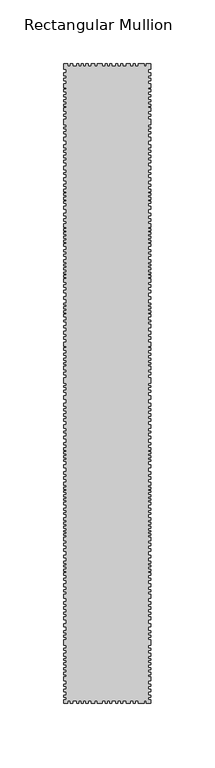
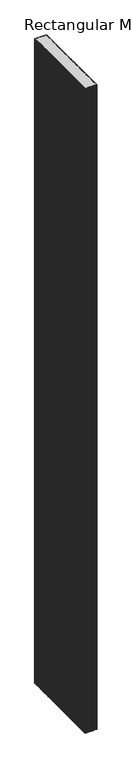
"""IFC4 building model written with IfcOpenShell, lengths in millimetres: member geometry, Rectangular Mullion : DucoSun Cubic Design louvre 500."""

from ifc_helpers import new_model, si_unit, frame, origin, place, context, project, spatial, polyline, outline, extrude, source, transform, mapped, element, save


def rectangular_mullion_1ee86cb2(model_context):
    return source(origin(), model_context, "Body", "SweptSolid", [
        extrude(outline(polyline([(34.0, -497.3782451), (34.0, -500.0), (30.4544414, -500.0), (30.4544414, -498.0), (28.627942, -498.0), (28.627942, -500.0), (23.9842994, -500.0), (23.9842994, -498.0), (21.8172663, -498.0), (21.8172663, -500.0), (20.3003431, -500.0), (20.3003431, -498.0), (17.9475642, -498.0), (17.9475642, -500.0), (14.8827601, -500.0), (14.8827601, -498.0), (12.0965746, -498.0), (12.0965746, -500.0), (10.3939057, -500.0), (10.3939057, -498.0), (8.0101692, -498.0), (8.0101692, -500.0), (6.5242036, -500.0), (6.5242036, -498.0), (3.4884678, -498.0), (3.4884678, -500.0), (1.7094289, -500.0), (1.7094289, -498.0), (0.0, -498.0), (0.0, -500.0), (-1.8486488, -500.0), (-1.8486488, -498.0), (-4.2128978, -498.0), (-4.2128978, -500.0), (-7.9816511, -500.0), (-7.9816511, -498.0), (-10.0415908, -498.0), (-10.0415908, -500.0), (-12.7335575, -500.0), (-12.7335575, -498.0), (-15.0041729, -498.0), (-15.0041729, -500.0), (-16.8768453, -500.0), (-16.8768453, -498.0), (-18.9367851, -498.0), (-18.9367851, -500.0), (-20.2710642, -500.0), (-20.2710642, -498.0), (-22.3075955, -498.0), (-22.3075955, -500.0), (-23.8993671, -500.0), (-23.8993671, -498.0), (-26.9658683, -498.0), (-26.9658683, -500.0), (-28.9321744, -500.0), (-28.9321744, -498.0), (-30.8750721, -498.0), (-30.8750721, -500.0), (-34.0, -500.0), (-34.0, -497.3782451), (-32.0, -497.3782451), (-32.0, -495.4241521), (-34.0, -495.4241521), (-34.0, -493.6532553), (-32.0, -493.6532553), (-32.0, -490.9460223), (-34.0, -490.9460223), (-34.0, -488.9105087), (-32.0, -488.9105087), (-32.0, -486.7121541), (-34.0, -486.7121541), (-34.0, -485.0023227), (-32.0, -485.0023227), (-32.0, -482.3561551), (-34.0, -482.3561551), (-34.0, -479.3843053), (-32.0, -479.3843053), (-32.0, -477.8917893), (-34.0, -477.8917893), (-34.0, -475.8425117), (-32.0, -475.8425117), (-32.0, -473.8680636), (-34.0, -473.8680636), (-34.0, -472.1582322), (-32.0, -472.1582322), (-32.0, -470.0820083), (-34.0, -470.0820083), (-34.0, -468.3111116), (-32.0, -468.3111116), (-32.0, -466.4995045), (-34.0, -466.4995045), (-34.0, -465.0713495), (-32.0, -465.0713495), (-32.0, -463.4577392), (-34.0, -463.4577392), (-34.0, -461.0328231), (-32.0, -461.0328231), (-32.0, -458.5725067), (-34.0, -458.5725067), (-34.0, -457.0325964), (-32.0, -457.0325964), (-32.0, -454.5014796), (-34.0, -454.5014796), (-34.0, -450.4127524), (-32.0, -450.4127524), (-32.0, -448.4126391), (-34.0, -448.4126391), (-34.0, -446.8373286), (-32.0, -446.8373286), (-32.0, -444.9965163), (-34.0, -444.9965163), (-34.0, -443.3504053), (-32.0, -443.3504053), (-32.0, -440.3767855), (-34.0, -440.3767855), (-34.0, -437.9545244), (-32.0, -437.9545244), (-32.0, -434.5552168), (-34.0, -434.5552168), (-34.0, -432.5197032), (-32.0, -432.5197032), (-32.0, -430.239928), (-34.0, -430.239928), (-34.0, -428.6929377), (-32.0, -428.6929377), (-32.0, -426.4335177), (-34.0, -426.4335177), (-34.0, -424.5608452), (-32.0, -424.5608452), (-32.0, -422.6271073), (-34.0, -422.6271073), (-34.0, -420.5508835), (-32.0, -420.5508835), (-32.0, -418.0064916), (-34.0, -418.0064916), (-34.0, -414.9328661), (-32.0, -414.9328661), (-32.0, -412.9177077), (-34.0, -412.9177077), (-34.0, -411.4114277), (-32.0, -411.4114277), (-32.0, -408.9688114), (-34.0, -408.9688114), (-34.0, -406.7118273), (-32.0, -406.7118273), (-32.0, -403.8852623), (-34.0, -403.8852623), (-34.0, -402.4316003), (-32.0, -402.4316003), (-32.0, -399.9011516), (-34.0, -399.9011516), (-34.0, -397.8552569), (-32.0, -397.8552569), (-32.0, -396.6169522), (-34.0, -396.6169522), (-34.0, -395.0825312), (-32.0, -395.0825312), (-32.0, -393.4673512), (-34.0, -393.4673512), (-34.0, -392.0675286), (-32.0, -392.0675286), (-32.0, -390.5869469), (-34.0, -390.5869469), (-34.0, -389.1602046), (-32.0, -389.1602046), (-32.0, -386.3310055), (-34.0, -386.3310055), (-34.0, -384.2608252), (-32.0, -384.2608252), (-32.0, -381.1919832), (-34.0, -381.1919832), (-34.0, -379.2537672), (-32.0, -379.2537672), (-32.0, -376.9360418), (-34.0, -376.9360418), (-34.0, -375.0004598), (-32.0, -375.0004598), (-32.0, -372.9007258), (-34.0, -372.9007258), (-34.0, -370.1010805), (-32.0, -370.1010805), (-32.0, -368.8089365), (-34.0, -368.8089365), (-34.0, -367.3014351), (-32.0, -367.3014351), (-32.0, -366.0362108), (-34.0, -366.0362108), (-34.0, -365.0401831), (-32.0, -365.0401831), (-32.0, -363.2096458), (-34.0, -363.2096458), (-34.0, -361.6483051), (-32.0, -361.6483051), (-32.0, -360.1408038), (-34.0, -360.1408038), (-34.0, -358.6063828), (-32.0, -358.6063828), (-32.0, -357.0719618), (-34.0, -357.0719618), (-34.0, -355.0799064), (-32.0, -355.0799064), (-32.0, -352.3762692), (-34.0, -352.3762692), (-34.0, -350.8903036), (-32.0, -350.8903036), (-32.0, -349.1257194), (-34.0, -349.1257194), (-34.0, -347.6087962), (-32.0, -347.6087962), (-32.0, -344.8535683), (-34.0, -344.8535683), (-34.0, -342.7484504), (-32.0, -342.7484504), (-32.0, -341.4172729), (-34.0, -341.4172729), (-34.0, -339.9622649), (-32.0, -339.9622649), (-32.0, -338.3524688), (-34.0, -338.3524688), (-34.0, -336.8355456), (-32.0, -336.8355456), (-32.0, -335.1947919), (-34.0, -335.1947919), (-34.0, -333.9255296), (-32.0, -333.9255296), (-32.0, -332.5014792), (-34.0, -332.5014792), (-34.0, -331.1083865), (-32.0, -331.1083865), (-32.0, -329.6843361), (-34.0, -329.6843361), (-34.0, -327.0529387), (-32.0, -327.0529387), (-32.0, -324.9787784), (-34.0, -324.9787784), (-34.0, -323.0284485), (-32.0, -323.0284485), (-32.0, -320.7995001), (-34.0, -320.7995001), (-34.0, -318.8182126), (-32.0, -318.8182126), (-32.0, -315.6914933), (-34.0, -315.6914933), (-34.0, -313.4935025), (-32.0, -313.4935025), (-32.0, -310.954978), (-34.0, -310.954978), (-34.0, -309.4070971), (-32.0, -309.4070971), (-32.0, -308.1378348), (-34.0, -308.1378348), (-34.0, -306.4970812), (-32.0, -306.4970812), (-32.0, -304.8253698), (-34.0, -304.8253698), (-34.0, -303.3394042), (-32.0, -303.3394042), (-32.0, -302.0391843), (-34.0, -302.0391843), (-34.0, -300.0578969), (-32.0, -300.0578969), (-32.0, -297.6741604), (-34.0, -297.6741604), (-34.0, -296.0953219), (-32.0, -296.0953219), (-32.0, -293.3091364), (-34.0, -293.3091364), (-34.0, -291.0182728), (-32.0, -291.0182728), (-32.0, -288.572621), (-34.0, -288.572621), (-34.0, -287.1485707), (-32.0, -287.1485707), (-32.0, -285.0124951), (-34.0, -285.0124951), (-34.0, -282.1643944), (-32.0, -282.1643944), (-32.0, -279.3782089), (-34.0, -279.3782089), (-34.0, -277.427879), (-32.0, -277.427879), (-32.0, -275.4156339), (-34.0, -275.4156339), (-34.0, -273.6510498), (-32.0, -273.6510498), (-32.0, -271.1744404), (-34.0, -271.1744404), (-34.0, -269.6884748), (-32.0, -269.6884748), (-32.0, -267.5523993), (-34.0, -267.5523993), (-34.0, -265.4163237), (-32.0, -265.4163237), (-32.0, -262.1967316), (-34.0, -262.1967316), (-34.0, -259.5343765), (-32.0, -259.5343765), (-32.0, -256.7791486), (-34.0, -256.7791486), (-34.0, -255.0764797), (-32.0, -255.0764797), (-32.0, -252.9404041), (-34.0, -252.9404041), (-34.0, -251.6092266), (-32.0, -251.6092266), (-32.0, -249.5660239), (-34.0, -249.5660239), (-34.0, -245.512038), (-32.0, -245.512038), (-32.0, -243.0030092), (-34.0, -243.0030092), (-34.0, -241.3312979), (-32.0, -241.3312979), (-32.0, -239.0404342), (-34.0, -239.0404342), (-34.0, -236.5638249), (-32.0, -236.5638249), (-32.0, -235.015944), (-34.0, -235.015944), (-34.0, -233.5609361), (-32.0, -233.5609361), (-32.0, -231.5796486), (-34.0, -231.5796486), (-34.0, -230.0627254), (-32.0, -230.0627254), (-32.0, -227.8337769), (-34.0, -227.8337769), (-34.0, -226.1620656), (-32.0, -226.1620656), (-32.0, -224.0259901), (-34.0, -224.0259901), (-34.0, -222.0756602), (-32.0, -222.0756602), (-32.0, -220.6516099), (-34.0, -220.6516099), (-34.0, -217.7415939), (-32.0, -217.7415939), (-32.0, -215.2030693), (-34.0, -215.2030693), (-34.0, -213.1908242), (-32.0, -213.1908242), (-32.0, -211.2404944), (-34.0, -211.2404944), (-34.0, -209.1353764), (-32.0, -209.1353764), (-32.0, -206.2563181), (-34.0, -206.2563181), (-34.0, -204.6155644), (-32.0, -204.6155644), (-32.0, -201.7889994), (-34.0, -201.7889994), (-34.0, -200.3353374), (-32.0, -200.3353374), (-32.0, -197.8048887), (-34.0, -197.8048887), (-34.0, -195.758994), (-32.0, -195.758994), (-32.0, -194.5206893), (-34.0, -194.5206893), (-34.0, -192.9862683), (-32.0, -192.9862683), (-32.0, -191.3710883), (-34.0, -191.3710883), (-34.0, -189.9712657), (-32.0, -189.9712657), (-32.0, -188.490684), (-34.0, -188.490684), (-34.0, -187.0639417), (-32.0, -187.0639417), (-32.0, -184.2347426), (-34.0, -184.2347426), (-34.0, -182.1645623), (-32.0, -182.1645623), (-32.0, -179.0957203), (-34.0, -179.0957203), (-34.0, -177.1575043), (-32.0, -177.1575043), (-32.0, -174.8397789), (-34.0, -174.8397789), (-34.0, -172.9041969), (-32.0, -172.9041969), (-32.0, -170.8044629), (-34.0, -170.8044629), (-34.0, -168.0048176), (-32.0, -168.0048176), (-32.0, -166.7126736), (-34.0, -166.7126736), (-34.0, -165.2051722), (-32.0, -165.2051722), (-32.0, -163.9399479), (-34.0, -163.9399479), (-34.0, -162.9439202), (-32.0, -162.9439202), (-32.0, -161.1133829), (-34.0, -161.1133829), (-34.0, -159.5520422), (-32.0, -159.5520422), (-32.0, -158.0445409), (-34.0, -158.0445409), (-34.0, -156.5101199), (-32.0, -156.5101199), (-32.0, -154.9756989), (-34.0, -154.9756989), (-34.0, -152.9836435), (-32.0, -152.9836435), (-32.0, -150.2800063), (-34.0, -150.2800063), (-34.0, -148.7940407), (-32.0, -148.7940407), (-32.0, -147.0294565), (-34.0, -147.0294565), (-34.0, -145.5125333), (-32.0, -145.5125333), (-32.0, -142.7573054), (-34.0, -142.7573054), (-34.0, -140.6521875), (-32.0, -140.6521875), (-32.0, -139.32101), (-34.0, -139.32101), (-34.0, -137.866002), (-32.0, -137.866002), (-32.0, -136.2562059), (-34.0, -136.2562059), (-34.0, -134.7392827), (-32.0, -134.7392827), (-32.0, -133.098529), (-34.0, -133.098529), (-34.0, -131.8292667), (-32.0, -131.8292667), (-32.0, -130.4052163), (-34.0, -130.4052163), (-34.0, -129.0121236), (-32.0, -129.0121236), (-32.0, -127.5880732), (-34.0, -127.5880732), (-34.0, -124.9566758), (-32.0, -124.9566758), (-32.0, -122.8825155), (-34.0, -122.8825155), (-34.0, -120.9321856), (-32.0, -120.9321856), (-32.0, -118.7032372), (-34.0, -118.7032372), (-34.0, -116.7219497), (-32.0, -116.7219497), (-32.0, -113.5952304), (-34.0, -113.5952304), (-34.0, -111.3972396), (-32.0, -111.3972396), (-32.0, -108.8587151), (-34.0, -108.8587151), (-34.0, -107.3108342), (-32.0, -107.3108342), (-32.0, -106.0415719), (-34.0, -106.0415719), (-34.0, -104.4008183), (-32.0, -104.4008183), (-32.0, -102.7291069), (-34.0, -102.7291069), (-34.0, -101.2431413), (-32.0, -101.2431413), (-32.0, -99.9429214), (-34.0, -99.9429214), (-34.0, -97.961634), (-32.0, -97.961634), (-32.0, -95.5778975), (-34.0, -95.5778975), (-34.0, -93.999059), (-32.0, -93.999059), (-32.0, -91.2128735), (-34.0, -91.2128735), (-34.0, -88.9220099), (-32.0, -88.9220099), (-32.0, -86.4763581), (-34.0, -86.4763581), (-34.0, -85.0523078), (-32.0, -85.0523078), (-32.0, -82.9162322), (-34.0, -82.9162322), (-34.0, -80.0681315), (-32.0, -80.0681315), (-32.0, -77.281946), (-34.0, -77.281946), (-34.0, -75.3316161), (-32.0, -75.3316161), (-32.0, -73.319371), (-34.0, -73.319371), (-34.0, -71.5547869), (-32.0, -71.5547869), (-32.0, -69.0781775), (-34.0, -69.0781775), (-34.0, -67.5922119), (-32.0, -67.5922119), (-32.0, -65.4561364), (-34.0, -65.4561364), (-34.0, -63.3200608), (-32.0, -63.3200608), (-32.0, -60.1004687), (-34.0, -60.1004687), (-34.0, -57.4381136), (-32.0, -57.4381136), (-32.0, -54.6828857), (-34.0, -54.6828857), (-34.0, -52.9802168), (-32.0, -52.9802168), (-32.0, -50.8441412), (-34.0, -50.8441412), (-34.0, -49.5129637), (-32.0, -49.5129637), (-32.0, -47.469761), (-34.0, -47.469761), (-34.0, -43.4157751), (-32.0, -43.4157751), (-32.0, -40.9067463), (-34.0, -40.9067463), (-34.0, -39.235035), (-32.0, -39.235035), (-32.0, -36.9441713), (-34.0, -36.9441713), (-34.0, -34.467562), (-32.0, -34.467562), (-32.0, -32.9196811), (-34.0, -32.9196811), (-34.0, -31.4646731), (-32.0, -31.4646731), (-32.0, -29.4833857), (-34.0, -29.4833857), (-34.0, -27.9664625), (-32.0, -27.9664625), (-32.0, -25.737514), (-34.0, -25.737514), (-34.0, -24.0658027), (-32.0, -24.0658027), (-32.0, -21.9297272), (-34.0, -21.9297272), (-34.0, -19.9793973), (-32.0, -19.9793973), (-32.0, -18.555347), (-34.0, -18.555347), (-34.0, -15.645331), (-32.0, -15.645331), (-32.0, -13.1068064), (-34.0, -13.1068064), (-34.0, -11.0945613), (-32.0, -11.0945613), (-32.0, -9.1442315), (-34.0, -9.1442315), (-34.0, -7.0391135), (-32.0, -7.0391135), (-32.0, -4.0), (-34.0, -4.0), (-34.0, 0.0), (-30.8750721, 0.0), (-30.8750721, -2.0), (-28.9321744, -2.0), (-28.9321744, 0.0), (-26.9658683, 0.0), (-26.9658683, -2.0), (-23.8993671, -2.0), (-23.8993671, 0.0), (-22.3075955, 0.0), (-22.3075955, -2.0), (-20.2710642, -2.0), (-20.2710642, 0.0), (-18.9367851, 0.0), (-18.9367851, -2.0), (-16.8768453, -2.0), (-16.8768453, 0.0), (-15.0041729, 0.0), (-15.0041729, -2.0), (-12.7335575, -2.0), (-12.7335575, 0.0), (-10.0415908, 0.0), (-10.0415908, -2.0), (-7.9816511, -2.0), (-7.9816511, 0.0), (-4.2128978, 0.0), (-4.2128978, -2.0), (-1.8486488, -2.0), (-1.8486488, 0.0), (0.0, 0.0), (0.0, -2.0), (1.7094289, -2.0), (1.7094289, 0.0), (3.4884678, 0.0), (3.4884678, -2.0), (6.5242036, -2.0), (6.5242036, 0.0), (8.0101692, 0.0), (8.0101692, -2.0), (10.3939057, -2.0), (10.3939057, 0.0), (12.0965746, 0.0), (12.0965746, -2.0), (14.8827601, -2.0), (14.8827601, 0.0), (17.9475642, 0.0), (17.9475642, -2.0), (20.3003431, -2.0), (20.3003431, 0.0), (21.8172663, 0.0), (21.8172663, -2.0), (23.9842994, -2.0), (23.9842994, 0.0), (28.627942, 0.0), (28.627942, -2.0), (30.4544414, -2.0), (30.4544414, 0.0), (34.0, 0.0), (34.0, -4.0), (32.0, -4.0), (32.0, -7.0391135), (34.0, -7.0391135), (34.0, -9.1442315), (32.0, -9.1442315), (32.0, -11.0945613), (34.0, -11.0945613), (34.0, -13.1068064), (32.0, -13.1068064), (32.0, -15.645331), (34.0, -15.645331), (34.0, -18.555347), (32.0, -18.555347), (32.0, -19.9793973), (34.0, -19.9793973), (34.0, -21.9297272), (32.0, -21.9297272), (32.0, -24.0658027), (34.0, -24.0658027), (34.0, -25.737514), (32.0, -25.737514), (32.0, -27.9664625), (34.0, -27.9664625), (34.0, -29.4833857), (32.0, -29.4833857), (32.0, -31.4646731), (34.0, -31.4646731), (34.0, -32.9196811), (32.0, -32.9196811), (32.0, -34.467562), (34.0, -34.467562), (34.0, -36.9441713), (32.0, -36.9441713), (32.0, -39.235035), (34.0, -39.235035), (34.0, -40.9067463), (32.0, -40.9067463), (32.0, -43.4157751), (34.0, -43.4157751), (34.0, -47.469761), (32.0, -47.469761), (32.0, -49.5129637), (34.0, -49.5129637), (34.0, -50.8441412), (32.0, -50.8441412), (32.0, -52.9802168), (34.0, -52.9802168), (34.0, -54.6828857), (32.0, -54.6828857), (32.0, -57.4381136), (34.0, -57.4381136), (34.0, -60.1004687), (32.0, -60.1004687), (32.0, -63.3200608), (34.0, -63.3200608), (34.0, -65.4561364), (32.0, -65.4561364), (32.0, -67.5922119), (34.0, -67.5922119), (34.0, -69.0781775), (32.0, -69.0781775), (32.0, -71.5547869), (34.0, -71.5547869), (34.0, -73.319371), (32.0, -73.319371), (32.0, -75.3316161), (34.0, -75.3316161), (34.0, -77.281946), (32.0, -77.281946), (32.0, -80.0681315), (34.0, -80.0681315), (34.0, -82.9162322), (32.0, -82.9162322), (32.0, -85.0523078), (34.0, -85.0523078), (34.0, -86.4763581), (32.0, -86.4763581), (32.0, -88.9220099), (34.0, -88.9220099), (34.0, -91.2128735), (32.0, -91.2128735), (32.0, -93.999059), (34.0, -93.999059), (34.0, -95.5778975), (32.0, -95.5778975), (32.0, -97.961634), (34.0, -97.961634), (34.0, -99.9429214), (32.0, -99.9429214), (32.0, -101.2431413), (34.0, -101.2431413), (34.0, -102.7291069), (32.0, -102.7291069), (32.0, -104.4008183), (34.0, -104.4008183), (34.0, -106.0415719), (32.0, -106.0415719), (32.0, -107.3108342), (34.0, -107.3108342), (34.0, -108.8587151), (32.0, -108.8587151), (32.0, -111.3972396), (34.0, -111.3972396), (34.0, -113.5952304), (32.0, -113.5952304), (32.0, -116.7219497), (34.0, -116.7219497), (34.0, -118.7032372), (32.0, -118.7032372), (32.0, -120.9321856), (34.0, -120.9321856), (34.0, -122.8825155), (32.0, -122.8825155), (32.0, -124.9566758), (34.0, -124.9566758), (34.0, -127.5880732), (32.0, -127.5880732), (32.0, -129.0121236), (34.0, -129.0121236), (34.0, -130.4052163), (32.0, -130.4052163), (32.0, -131.8292667), (34.0, -131.8292667), (34.0, -133.098529), (32.0, -133.098529), (32.0, -134.7392827), (34.0, -134.7392827), (34.0, -136.2562059), (32.0, -136.2562059), (32.0, -137.866002), (34.0, -137.866002), (34.0, -139.32101), (32.0, -139.32101), (32.0, -140.6521875), (34.0, -140.6521875), (34.0, -142.7573054), (32.0, -142.7573054), (32.0, -145.5125333), (34.0, -145.5125333), (34.0, -147.0294565), (32.0, -147.0294565), (32.0, -148.7940407), (34.0, -148.7940407), (34.0, -150.2800063), (32.0, -150.2800063), (32.0, -152.9836435), (34.0, -152.9836435), (34.0, -154.9756989), (32.0, -154.9756989), (32.0, -156.5101199), (34.0, -156.5101199), (34.0, -158.0445409), (32.0, -158.0445409), (32.0, -159.5520422), (34.0, -159.5520422), (34.0, -161.1133829), (32.0, -161.1133829), (32.0, -162.9439202), (34.0, -162.9439202), (34.0, -163.9399479), (32.0, -163.9399479), (32.0, -165.2051722), (34.0, -165.2051722), (34.0, -166.7126736), (32.0, -166.7126736), (32.0, -168.0048176), (34.0, -168.0048176), (34.0, -170.8044629), (32.0, -170.8044629), (32.0, -172.9041969), (34.0, -172.9041969), (34.0, -174.8397789), (32.0, -174.8397789), (32.0, -177.1575043), (34.0, -177.1575043), (34.0, -179.0957203), (32.0, -179.0957203), (32.0, -182.1645623), (34.0, -182.1645623), (34.0, -184.2347426), (32.0, -184.2347426), (32.0, -187.0639417), (34.0, -187.0639417), (34.0, -188.490684), (32.0, -188.490684), (32.0, -189.9712657), (34.0, -189.9712657), (34.0, -191.3710883), (32.0, -191.3710883), (32.0, -192.9862683), (34.0, -192.9862683), (34.0, -194.5206893), (32.0, -194.5206893), (32.0, -195.758994), (34.0, -195.758994), (34.0, -197.8048887), (32.0, -197.8048887), (32.0, -200.3353374), (34.0, -200.3353374), (34.0, -201.7889994), (32.0, -201.7889994), (32.0, -203.7186411), (34.0, -203.7186411), (34.0, -206.2563181), (32.0, -206.2563181), (32.0, -209.1353764), (34.0, -209.1353764), (34.0, -211.2404944), (32.0, -211.2404944), (32.0, -213.1908242), (34.0, -213.1908242), (34.0, -215.2030693), (32.0, -215.2030693), (32.0, -217.7415939), (34.0, -217.7415939), (34.0, -220.6516099), (32.0, -220.6516099), (32.0, -222.0756602), (34.0, -222.0756602), (34.0, -224.0259901), (32.0, -224.0259901), (32.0, -226.1620656), (34.0, -226.1620656), (34.0, -227.8337769), (32.0, -227.8337769), (32.0, -230.0627254), (34.0, -230.0627254), (34.0, -231.5796486), (32.0, -231.5796486), (32.0, -233.5609361), (34.0, -233.5609361), (34.0, -235.015944), (32.0, -235.015944), (32.0, -236.5638249), (34.0, -236.5638249), (34.0, -239.0404342), (32.0, -239.0404342), (32.0, -241.3312979), (34.0, -241.3312979), (34.0, -243.0030092), (32.0, -243.0030092), (32.0, -245.512038), (34.0, -245.512038), (34.0, -249.5660239), (32.0, -249.5660239), (32.0, -251.6092266), (34.0, -251.6092266), (34.0, -252.9404041), (32.0, -252.9404041), (32.0, -255.0764797), (34.0, -255.0764797), (34.0, -256.7791486), (32.0, -256.7791486), (32.0, -259.5343765), (34.0, -259.5343765), (34.0, -262.1967316), (32.0, -262.1967316), (32.0, -265.4163237), (34.0, -265.4163237), (34.0, -267.5523993), (32.0, -267.5523993), (32.0, -269.6884748), (34.0, -269.6884748), (34.0, -271.1744404), (32.0, -271.1744404), (32.0, -273.6510498), (34.0, -273.6510498), (34.0, -275.4156339), (32.0, -275.4156339), (32.0, -277.427879), (34.0, -277.427879), (34.0, -279.3782089), (32.0, -279.3782089), (32.0, -282.1643944), (34.0, -282.1643944), (34.0, -285.0124951), (32.0, -285.0124951), (32.0, -287.1485707), (34.0, -287.1485707), (34.0, -288.572621), (32.0, -288.572621), (32.0, -291.0182728), (34.0, -291.0182728), (34.0, -293.3091364), (32.0, -293.3091364), (32.0, -296.0953219), (34.0, -296.0953219), (34.0, -297.6741604), (32.0, -297.6741604), (32.0, -300.0578969), (34.0, -300.0578969), (34.0, -302.0391843), (32.0, -302.0391843), (32.0, -303.3394042), (34.0, -303.3394042), (34.0, -304.8253698), (32.0, -304.8253698), (32.0, -306.4970812), (34.0, -306.4970812), (34.0, -308.1378348), (32.0, -308.1378348), (32.0, -309.4070971), (34.0, -309.4070971), (34.0, -310.954978), (32.0, -310.954978), (32.0, -313.4935025), (34.0, -313.4935025), (34.0, -315.6914933), (32.0, -315.6914933), (32.0, -318.8182126), (34.0, -318.8182126), (34.0, -320.7995001), (32.0, -320.7995001), (32.0, -323.0284485), (34.0, -323.0284485), (34.0, -324.9787784), (32.0, -324.9787784), (32.0, -327.0529387), (34.0, -327.0529387), (34.0, -329.6843361), (32.0, -329.6843361), (32.0, -331.1083865), (34.0, -331.1083865), (34.0, -332.5014792), (32.0, -332.5014792), (32.0, -333.9255296), (34.0, -333.9255296), (34.0, -335.1947919), (32.0, -335.1947919), (32.0, -336.8355456), (34.0, -336.8355456), (34.0, -338.3524688), (32.0, -338.3524688), (32.0, -339.9622649), (34.0, -339.9622649), (34.0, -341.4172729), (32.0, -341.4172729), (32.0, -342.7484504), (34.0, -342.7484504), (34.0, -344.8535683), (32.0, -344.8535683), (32.0, -347.6087962), (34.0, -347.6087962), (34.0, -349.1257194), (32.0, -349.1257194), (32.0, -350.8903036), (34.0, -350.8903036), (34.0, -352.3762692), (32.0, -352.3762692), (32.0, -355.0799064), (34.0, -355.0799064), (34.0, -357.0719618), (32.0, -357.0719618), (32.0, -358.6063828), (34.0, -358.6063828), (34.0, -360.1408038), (32.0, -360.1408038), (32.0, -361.6483051), (34.0, -361.6483051), (34.0, -363.2096458), (32.0, -363.2096458), (32.0, -365.0401831), (34.0, -365.0401831), (34.0, -366.0362108), (32.0, -366.0362108), (32.0, -367.3014351), (34.0, -367.3014351), (34.0, -368.8089365), (32.0, -368.8089365), (32.0, -370.1010805), (34.0, -370.1010805), (34.0, -372.9007258), (32.0, -372.9007258), (32.0, -375.0004598), (34.0, -375.0004598), (34.0, -376.9360418), (32.0, -376.9360418), (32.0, -379.2537672), (34.0, -379.2537672), (34.0, -381.1919832), (32.0, -381.1919832), (32.0, -384.2608252), (34.0, -384.2608252), (34.0, -386.3310055), (32.0, -386.3310055), (32.0, -389.1602046), (34.0, -389.1602046), (34.0, -390.5869469), (32.0, -390.5869469), (32.0, -392.0675286), (34.0, -392.0675286), (34.0, -393.4673512), (32.0, -393.4673512), (32.0, -395.0825312), (34.0, -395.0825312), (34.0, -396.6169522), (32.0, -396.6169522), (32.0, -397.8552569), (34.0, -397.8552569), (34.0, -399.9011516), (32.0, -399.9011516), (32.0, -402.4316003), (34.0, -402.4316003), (34.0, -403.8852623), (32.0, -403.8852623), (32.0, -406.7118273), (34.0, -406.7118273), (34.0, -408.9688114), (32.0, -408.9688114), (32.0, -411.4114277), (34.0, -411.4114277), (34.0, -412.9177077), (32.0, -412.9177077), (32.0, -414.9328661), (34.0, -414.9328661), (34.0, -418.0064916), (32.0, -418.0064916), (32.0, -420.5508835), (34.0, -420.5508835), (34.0, -422.6271073), (32.0, -422.6271073), (32.0, -424.5608452), (34.0, -424.5608452), (34.0, -426.4335177), (32.0, -426.4335177), (32.0, -428.6929377), (34.0, -428.6929377), (34.0, -430.239928), (32.0, -430.239928), (32.0, -432.5197032), (34.0, -432.5197032), (34.0, -434.5552168), (32.0, -434.5552168), (32.0, -437.9545244), (34.0, -437.9545244), (34.0, -440.3767855), (32.0, -440.3767855), (32.0, -443.3504053), (34.0, -443.3504053), (34.0, -444.9965163), (32.0, -444.9965163), (32.0, -446.8373286), (34.0, -446.8373286), (34.0, -448.4126391), (32.0, -448.4126391), (32.0, -450.4127524), (34.0, -450.4127524), (34.0, -454.5014796), (32.0, -454.5014796), (32.0, -457.0325964), (34.0, -457.0325964), (34.0, -458.5725067), (32.0, -458.5725067), (32.0, -461.0328231), (34.0, -461.0328231), (34.0, -463.4577392), (32.0, -463.4577392), (32.0, -465.0713495), (34.0, -465.0713495), (34.0, -466.4995045), (32.0, -466.4995045), (32.0, -468.3111116), (34.0, -468.3111116), (34.0, -470.0820083), (32.0, -470.0820083), (32.0, -472.1582322), (34.0, -472.1582322), (34.0, -473.8680636), (32.0, -473.8680636), (32.0, -475.8425117), (34.0, -475.8425117), (34.0, -477.8917893), (32.0, -477.8917893), (32.0, -479.3843053), (34.0, -479.3843053), (34.0, -482.3561551), (32.0, -482.3561551), (32.0, -485.0023227), (34.0, -485.0023227), (34.0, -486.7121541), (32.0, -486.7121541), (32.0, -488.9105087), (34.0, -488.9105087), (34.0, -490.9460223), (32.0, -490.9460223), (32.0, -493.6532553), (34.0, -493.6532553), (34.0, -495.4241521), (32.0, -495.4241521), (32.0, -497.3782451), (34.0, -497.3782451)])), frame((0.0, 0.0, -3900.0), z_axis=(0.0, 0.0, 1.0), x_axis=(1.0, 0.0, 0.0)), (0.0, 0.0, 1.0), 3900.0),
    ])


if __name__ == "__main__":
    model = new_model("IFC4")
    model_context = context("Model", 3, world=origin())
    ifc_project = project(units=[si_unit("LENGTHUNIT", "METRE", prefix="MILLI")], contexts=[model_context])
    site = spatial("IfcSite", under=ifc_project)
    building = spatial("IfcBuilding", under=site)
    placement = place(None, origin())
    rectangular_mullion_shape = rectangular_mullion_1ee86cb2(model_context)
    element("IfcMember", 1, ObjectType="Rectangular Mullion : DucoSun Cubic Design louvre 500", at=placement, inside=building, context=model_context, shape_type="MappedRepresentation", body=[
        mapped(rectangular_mullion_shape, transform((0.0, 0.0, 0.0), x_axis=(1.0, 0.0, 0.0), y_axis=(0.0, 1.0, 0.0), z_axis=(0.0, 0.0, 1.0))),
    ])
    save(model, "model.ifc")
